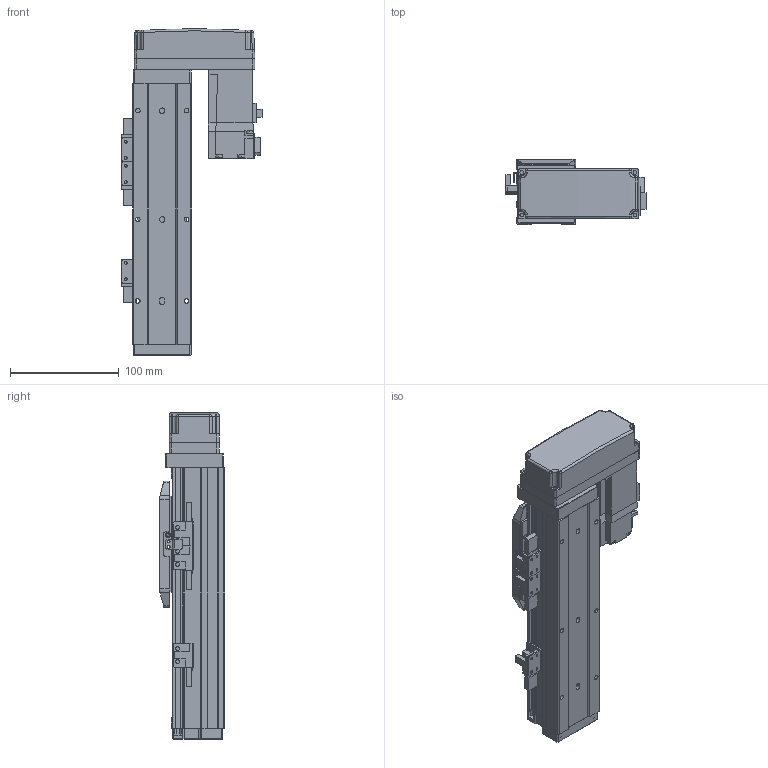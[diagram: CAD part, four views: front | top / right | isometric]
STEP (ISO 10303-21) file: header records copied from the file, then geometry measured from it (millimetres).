
FILE_DESCRIPTION (( 'STEP AP214' ), '1' );
FILE_NAME ('N_GRH5-100-BL-M10.step', '2025-03-14T09:45:12', ( '' ), ( '' ), 'SwSTEP 2.0', 'SolidWorks 2016', '' );
FILE_SCHEMA (( 'AUTOMOTIVE_DESIGN' ));
Length unit declared in the file: millimetre
Products named in the file (5): N_GRH5-BL-008^N_GRH5-100-BL-M10; N_GRH5-GY-004^N_GRH5-100-BL-M10; HF-KP13_100W_Motor^N_GRH5-100-BL-M10; N_GRH5-GY-011^N_GRH5-100-BL-M10; N_GRH5-100-BL-M10
Assembly tree (4 placements, depth 2):
  N_GRH5-100-BL-M10
    N_GRH5-GY-011^N_GRH5-100-BL-M10
    N_GRH5-GY-004^N_GRH5-100-BL-M10
    HF-KP13_100W_Motor^N_GRH5-100-BL-M10
    N_GRH5-BL-008^N_GRH5-100-BL-M10
Bounding box: 128.85 x 60 x 300.5 mm (x, y, z)
Volume: 843941.2 mm3; surface area: 191858.2 mm2
Topology: 4 solids, 5 shells, 884 faces, 2280 edges, 1449 vertices
Faces by surface type: plane 547, cylinder 282, cone 30, bspline 15, sphere 10
Entity records: 33861 total; most frequent: CARTESIAN_POINT 5451, DIRECTION 4533, ORIENTED_EDGE 4512, EDGE_CURVE 2256, LINE 1599, VECTOR 1599, AXIS2_PLACEMENT_3D 1467, VERTEX_POINT 1447
